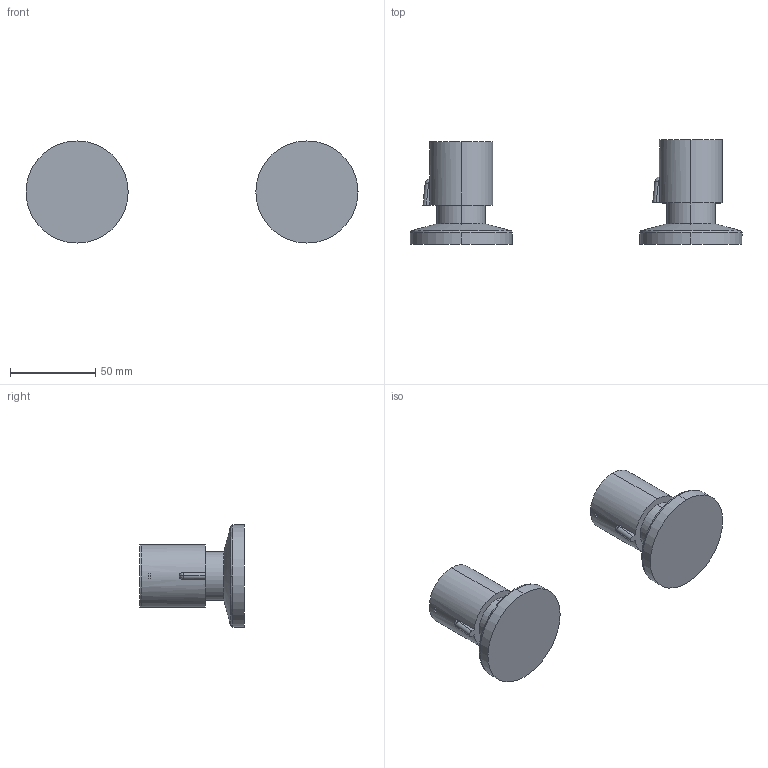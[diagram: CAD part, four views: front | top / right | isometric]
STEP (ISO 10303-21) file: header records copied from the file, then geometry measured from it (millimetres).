
FILE_DESCRIPTION (( 'STEP AP203' ), '1' );
FILE_NAME ('02124010 x architetti.STEP', '2023-10-23T06:56:26', ( '' ), ( '' ), 'SwSTEP 2.0', 'SolidWorks 2020', '' );
FILE_SCHEMA (( 'CONFIG_CONTROL_DESIGN' ));
Length unit declared in the file: millimetre
Products named in the file (1): 02124010 x architetti
Bounding box: 195 x 61.42 x 60 mm (x, y, z)
Volume: 141697.9 mm3; surface area: 35902.4 mm2
Topology: 2 solids, 4 shells, 62 faces, 150 edges, 98 vertices
Faces by surface type: cylinder 22, plane 20, bspline 12, cone 8
Entity records: 2581 total; most frequent: CARTESIAN_POINT 1065, DIRECTION 308, ORIENTED_EDGE 300, EDGE_CURVE 150, AXIS2_PLACEMENT_3D 127, VERTEX_POINT 98, CIRCLE 76, EDGE_LOOP 68
